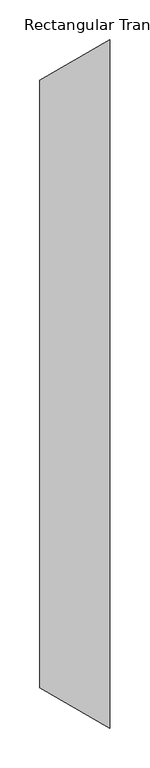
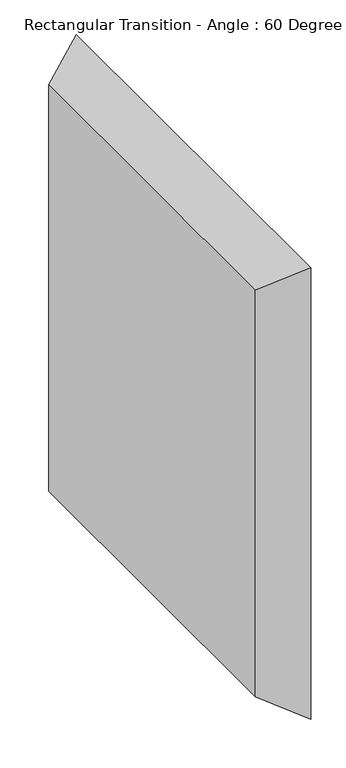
"""IFC4 building model written with IfcOpenShell, lengths in millimetres: duct fitting geometry, Rectangular Transition - Angle : 60 Degree."""

from ifc_helpers import new_model, si_unit, origin, place, context, project, spatial, faceted_brep, source, transform, mapped, element, save


def rectangular_transition_angle_60_degree_83ae2279(model_context):
    return source(origin(), model_context, "Body", "Brep", [
        faceted_brep([(87.988181, -431.8, 508.0198438), (87.988181, -431.8, -507.9801562), (87.988181, 431.8, -507.9801562), (87.988181, 431.8, 508.0198438), (0.0, -381.0, 457.2), (0.0, 381.0, 457.2), (0.0, 381.0, -457.2), (0.0, -381.0, -457.2)], [[[0, 1, 2, 3]], [[4, 5, 6, 7]], [[4, 7, 1, 0]], [[7, 6, 2, 1]], [[6, 5, 3, 2]], [[5, 4, 0, 3]]]),
    ])


if __name__ == "__main__":
    model = new_model("IFC4")
    model_context = context("Model", 3, world=origin())
    ifc_project = project(units=[si_unit("LENGTHUNIT", "METRE", prefix="MILLI")], contexts=[model_context])
    site = spatial("IfcSite", under=ifc_project)
    building = spatial("IfcBuilding", under=site)
    placement = place(None, origin())
    rectangular_transition_angle_60_degree_shape = rectangular_transition_angle_60_degree_83ae2279(model_context)
    element("IfcDuctFitting", 1, ObjectType="Rectangular Transition - Angle : 60 Degree", at=placement, inside=building, context=model_context, shape_type="MappedRepresentation", body=[
        mapped(rectangular_transition_angle_60_degree_shape, transform((0.0, 0.0, 0.0), x_axis=(1.0, 0.0, 0.0), y_axis=(0.0, 1.0, 0.0), z_axis=(0.0, 0.0, 1.0))),
    ])
    save(model, "model.ifc")
